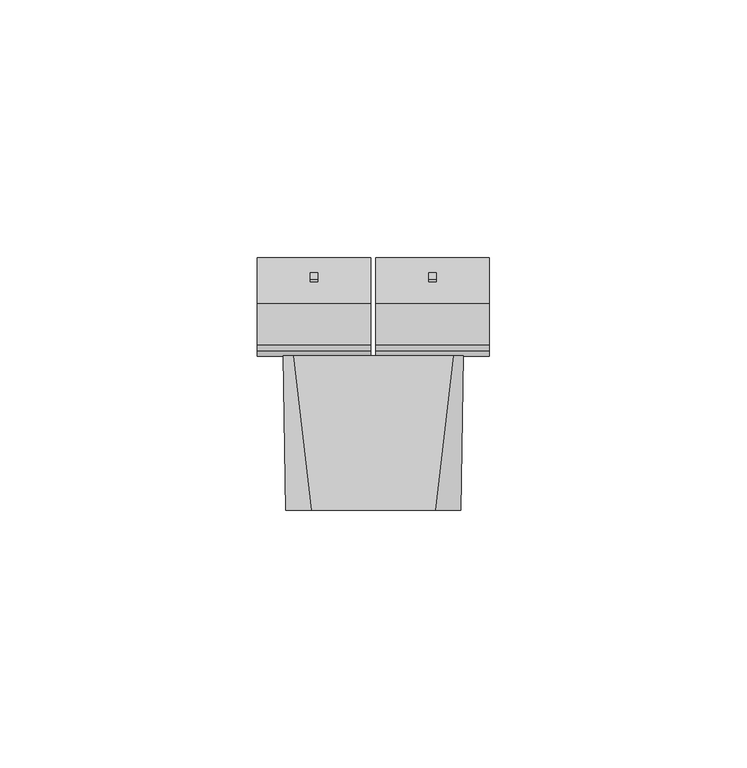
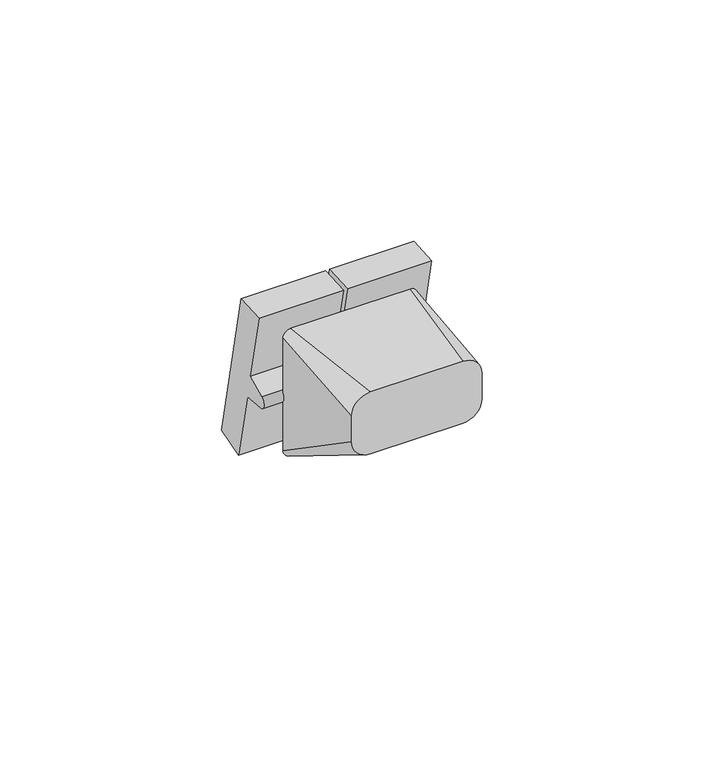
"""IFC4 building model written with IfcOpenShell, lengths in millimetres: proxy geometry, IEK_Skandy_Механизм выключателя : В2 И_SK-V09B."""

from ifc_helpers import new_model, si_unit, point, frame, frame_2d, origin, place, context, project, spatial, polyline, circle_curve, trimmed, segment, composite_curve, outline, extrude, source, transform, mapped, element, save
from ifc_brep_helpers import plane_surface, spline_surface, advanced_brep


def electrical_fixtures_af1ea3f6(model_context):
    return source(origin(), model_context, "Body", "SolidModel", [
        extrude(outline(polyline([(0.0, -1.473521), (0.0, 0.0), (0.5, 0.0), (0.5, -1.473521), (0.0, -1.473521)])), frame((-10.7632395, 16.1552094, -3.3925929), z_axis=(0.0, -0.20968772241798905, 0.9777684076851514), x_axis=(0.0, -0.9777684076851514, -0.20968772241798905)), (0.0, 0.0, 1.0), 5.9708694),
        extrude(outline(polyline([(0.0, -1.473521), (0.0, 0.0), (0.5, 0.0), (0.5, -1.473521), (0.0, -1.473521)])), frame((12.2367605, 16.1552094, -3.3925929), z_axis=(0.0, -0.20968772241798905, 0.9777684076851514), x_axis=(0.0, -0.9777684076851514, -0.20968772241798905)), (0.0, 0.0, 1.0), 5.9708694),
        extrude(outline(composite_curve([segment(polyline([(19.1247035, -19.6237652), (11.4236286, -21.8320129), (7.3756597, -3.3748404), (1.5972872, -2.8692983)]), True, "CONTINUOUS"), segment(trimmed(circle_curve(frame_2d((1.7530049, -1.0894363)), 1.7866608), [point((1.5972872, -2.8692983))], [point((0.9979294, 0.5298284))], False, "CARTESIAN"), True, "CONTINUOUS"), segment(polyline([(0.9979294, 0.5298284), (6.2549179, 2.9812023), (2.206949, 21.4383748), (10.1988574, 21.9972235), (19.1247035, -19.6237652)]), True, "CONTINUOUS")], self_intersect=False)), frame((-22.5, 0.0, 0.0), z_axis=(1.0, 0.0, 0.0), x_axis=(0.0, 1.0, 0.0)), (0.0, 0.0, 1.0), 22.0),
        extrude(outline(composite_curve([segment(polyline([(19.1247035, -19.6237652), (11.4236286, -21.8320129), (7.3756597, -3.3748404), (1.5972872, -2.8692983)]), True, "CONTINUOUS"), segment(trimmed(circle_curve(frame_2d((1.7530049, -1.0894363)), 1.7866608), [point((1.5972872, -2.8692983))], [point((0.9979294, 0.5298284))], False, "CARTESIAN"), True, "CONTINUOUS"), segment(polyline([(0.9979294, 0.5298284), (6.2549179, 2.9812023), (2.206949, 21.4383748), (10.1988574, 21.9972235), (19.1247035, -19.6237652)]), True, "CONTINUOUS")], self_intersect=False)), frame((0.5, 0.0, 0.0), z_axis=(1.0, 0.0, 0.0), x_axis=(0.0, 1.0, 0.0)), (0.0, 0.0, 1.0), 22.0),
        advanced_brep(
        [(-12.0, -30.0, 17.0), (-17.0, -30.0, 12.0), (-17.0, -30.0, 5.0), (-12.0, -30.0, 0.0), (12.0, -30.0, 0.0), (17.0, -30.0, 5.0), (17.0, -30.0, 12.0), (12.0, -30.0, 17.0), (-15.5, 0.0, 17.5), (15.5, 0.0, 17.5), (17.5, 0.0, 15.5), (17.5, 0.0, -15.5), (15.5, 0.0, -17.5), (-15.5, 0.0, -17.5), (-17.5, 0.0, -15.5), (-17.5, 0.0, 15.5)],
        [
            (0, 1, circle_curve(frame((-12.0, -30.0, 12.0), z_axis=(0.0, -1.0, 0.0), x_axis=(1.0, 0.0, 0.0)), 5.0)),
            (1, 2),
            (2, 3, circle_curve(frame((-12.0, -30.0, 5.0), z_axis=(0.0, -1.0, 0.0), x_axis=(1.0, 0.0, 0.0)), 5.0)),
            (3, 4),
            (4, 5, circle_curve(frame((12.0, -30.0, 5.0), z_axis=(0.0, -1.0, 0.0), x_axis=(1.0, 0.0, 0.0)), 5.0)),
            (5, 6),
            (6, 7, circle_curve(frame((12.0, -30.0, 12.0), z_axis=(0.0, -1.0, 0.0), x_axis=(1.0, 0.0, 0.0)), 5.0)),
            (7, 0),
            (8, 9),
            (9, 10, circle_curve(frame((15.5, 0.0, 15.5), z_axis=(0.0, 1.0, 0.0), x_axis=(1.0, 0.0, 0.0)), 2.0)),
            (10, 11),
            (11, 12, circle_curve(frame((15.5, 0.0, -15.5), z_axis=(0.0, 1.0, 0.0), x_axis=(1.0, 0.0, 0.0)), 2.0)),
            (12, 13),
            (13, 14, circle_curve(frame((-15.5, 0.0, -15.5), z_axis=(0.0, 1.0, 0.0), x_axis=(1.0, 0.0, 0.0)), 2.0)),
            (14, 15),
            (15, 8, circle_curve(frame((-15.5, 0.0, 15.5), z_axis=(0.0, 1.0, 0.0), x_axis=(1.0, 0.0, 0.0)), 2.0)),
            (8, 0),
            (7, 9),
            (6, 10),
            (5, 11),
            (4, 12),
            (3, 13),
            (2, 14),
            (1, 15),
        ],
        [
            plane_surface(frame((0.0, -30.0, 8.5), z_axis=(0.0, -1.0, 0.0), x_axis=(-1.0, 0.0, 0.0))),
            plane_surface(frame((0.0, 0.0, 0.0), z_axis=(0.0, 1.0, 0.0), x_axis=(-1.0, 0.0, 0.0))),
            plane_surface(frame((0.0, 0.0, 17.5), z_axis=(0.0, -0.016664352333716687, 0.9998611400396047), x_axis=(-1.0, 0.0, 0.0))),
            spline_surface(2, 1, [[(17.5, 0.0, 15.5), (17.0, -30.0, 12.0)], [(17.5, 0.0, 17.5), (17.0, -30.0, 17.0)], [(15.5, 0.0, 17.5), (12.0, -30.0, 17.0)]], [3, 3], [2, 2], [0.0, 1.0], [0.0, 1.0], weights=[[1.0, 1.0], [0.7071067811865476, 0.7071067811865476], [1.0, 1.0]]),
            plane_surface(frame((17.5, 0.0, 0.0), z_axis=(0.9998611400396, -0.016664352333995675, 0.0), x_axis=(0.0, 0.0, 1.0))),
            spline_surface(2, 1, [[(15.5, 0.0, -17.5), (12.0, -30.0, 0.0)], [(17.5, 0.0, -17.5), (17.0, -30.0, 0.0)], [(17.5, 0.0, -15.5), (17.0, -30.0, 5.0)]], [3, 3], [2, 2], [0.0, 1.0], [0.0, 1.0], weights=[[1.0, 1.0], [0.7071067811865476, 0.7071067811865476], [1.0, 1.0]]),
            plane_surface(frame((0.0, 0.0, -17.5), z_axis=(0.0, -0.5038710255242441, -0.8637789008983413), x_axis=(1.0, 0.0, 0.0))),
            spline_surface(2, 1, [[(-17.5, 0.0, -15.5), (-17.0, -30.0, 5.0)], [(-17.5, 0.0, -17.5), (-17.0, -30.0, 0.0)], [(-15.5, 0.0, -17.5), (-12.0, -30.0, 0.0)]], [3, 3], [2, 2], [0.0, 1.0], [0.0, 1.0], weights=[[1.0, 1.0], [0.7071067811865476, 0.7071067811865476], [1.0, 1.0]]),
            plane_surface(frame((-17.5, 0.0, 0.0), z_axis=(-0.9998611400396, -0.01666435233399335, 0.0), x_axis=(0.0, 0.0, -1.0))),
            spline_surface(2, 1, [[(-15.5, 0.0, 17.5), (-12.0, -30.0, 17.0)], [(-17.5, 0.0, 17.5), (-17.0, -30.0, 17.0)], [(-17.5, 0.0, 15.5), (-17.0, -30.0, 12.0)]], [3, 3], [2, 2], [0.0, 1.0], [0.0, 1.0], weights=[[1.0, 1.0], [0.7071067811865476, 0.7071067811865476], [1.0, 1.0]]),
        ],
        [
            (0, [[1, 2, 3, 4, 5, 6, 7, 8]]),
            (1, [[9, 10, 11, 12, 13, 14, 15, 16]]),
            (2, [[-9, 17, -8, 18]]),
            (3, [[-10, -18, -7, 19]]),
            (4, [[-11, -19, -6, 20]]),
            (5, [[-12, -20, -5, 21]]),
            (6, [[-13, -21, -4, 22]]),
            (7, [[-14, -22, -3, 23]]),
            (8, [[-15, -23, -2, 24]]),
            (9, [[-16, -24, -1, -17]]),
        ],
    ),
    ])


if __name__ == "__main__":
    model = new_model("IFC4")
    model_context = context("Model", 3, world=origin())
    ifc_project = project(units=[si_unit("LENGTHUNIT", "METRE", prefix="MILLI")], contexts=[model_context])
    site = spatial("IfcSite", under=ifc_project)
    building = spatial("IfcBuilding", under=site)
    placement = place(None, origin())
    electrical_fixtures_shape = electrical_fixtures_af1ea3f6(model_context)
    element("IfcBuildingElementProxy", 1, Name="IEK_Skandy_Механизм выключателя : В2 И_SK-V09B", ObjectType="IEK_Skandy_Механизм выключателя : В2 И_SK-V09B", at=placement, inside=building, context=model_context, shape_type="MappedRepresentation", body=[
        mapped(electrical_fixtures_shape, transform((0.0, 0.0, 0.0), x_axis=(1.0, 0.0, 0.0), y_axis=(0.0, 1.0, 0.0), z_axis=(0.0, 0.0, 1.0))),
    ])
    save(model, "model.ifc")
